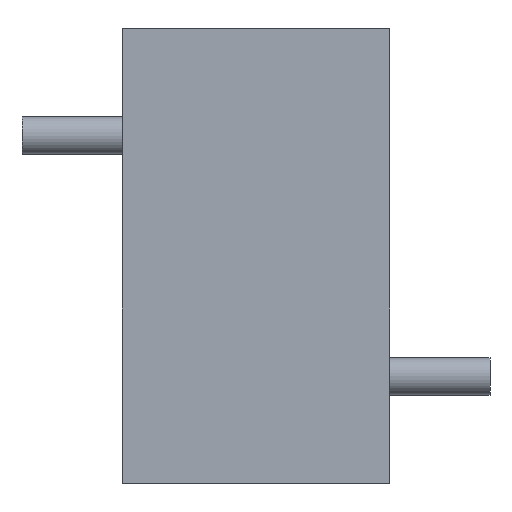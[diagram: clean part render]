
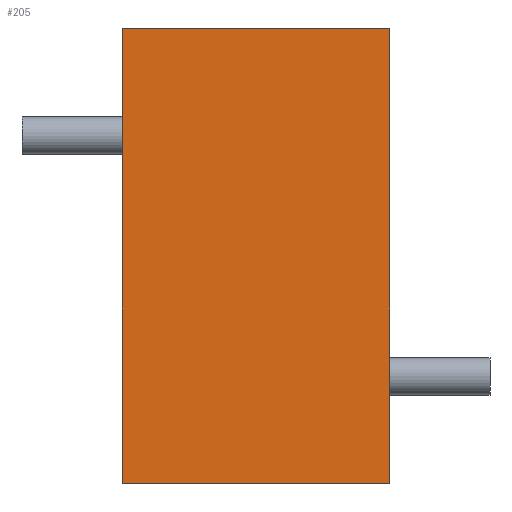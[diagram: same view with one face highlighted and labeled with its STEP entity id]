
A CAD part, top view. The second image highlights one B-rep face of the part: STEP entity #205.
In plain terms, the highlighted planar face has unit normal (0, 0, 1).
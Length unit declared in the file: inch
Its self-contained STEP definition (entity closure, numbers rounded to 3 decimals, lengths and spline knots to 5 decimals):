
#205=ADVANCED_FACE('',(#299),#300,.T.);
#299=FACE_OUTER_BOUND('',#470,.T.);
#300=PLANE('',#471);
#470=EDGE_LOOP('',(#641,#642,#643,#644));
#471=AXIS2_PLACEMENT_3D('',#645,#646,#647);
#641=ORIENTED_EDGE('',*,*,#1178,.T.);
#642=ORIENTED_EDGE('',*,*,#1179,.T.);
#643=ORIENTED_EDGE('',*,*,#1180,.T.);
#644=ORIENTED_EDGE('',*,*,#1181,.T.);
#645=CARTESIAN_POINT('',(0.0,0.0,0.3125));
#646=DIRECTION('',(0.0,0.0,1.0));
#647=DIRECTION('',(1.0,0.0,0.0));
#1178=EDGE_CURVE('',#1336,#1337,#1338,.T.);
#1179=EDGE_CURVE('',#1337,#1339,#1340,.T.);
#1180=EDGE_CURVE('',#1339,#1341,#1342,.T.);
#1181=EDGE_CURVE('',#1341,#1336,#1343,.T.);
#1336=VERTEX_POINT('',#1576);
#1337=VERTEX_POINT('',#1577);
#1338=LINE('',#1578,#1579);
#1339=VERTEX_POINT('',#1580);
#1340=LINE('',#1581,#1582);
#1341=VERTEX_POINT('',#1583);
#1342=LINE('',#1584,#1585);
#1343=LINE('',#1586,#1587);
#1576=CARTESIAN_POINT('',(1.0,-1.7,0.3125));
#1577=CARTESIAN_POINT('',(1.0,1.7,0.3125));
#1578=CARTESIAN_POINT('',(1.0,0.0,0.3125));
#1579=VECTOR('',#1936,1.0);
#1580=CARTESIAN_POINT('',(-1.0,1.7,0.3125));
#1581=CARTESIAN_POINT('',(0.0,1.7,0.3125));
#1582=VECTOR('',#1937,1.0);
#1583=CARTESIAN_POINT('',(-1.0,-1.7,0.3125));
#1584=CARTESIAN_POINT('',(-1.0,0.0,0.3125));
#1585=VECTOR('',#1938,1.0);
#1586=CARTESIAN_POINT('',(0.0,-1.7,0.3125));
#1587=VECTOR('',#1939,1.0);
#1936=DIRECTION('',(0.0,1.0,0.0));
#1937=DIRECTION('',(-1.0,0.0,0.0));
#1938=DIRECTION('',(0.0,-1.0,0.0));
#1939=DIRECTION('',(1.0,0.0,0.0));
